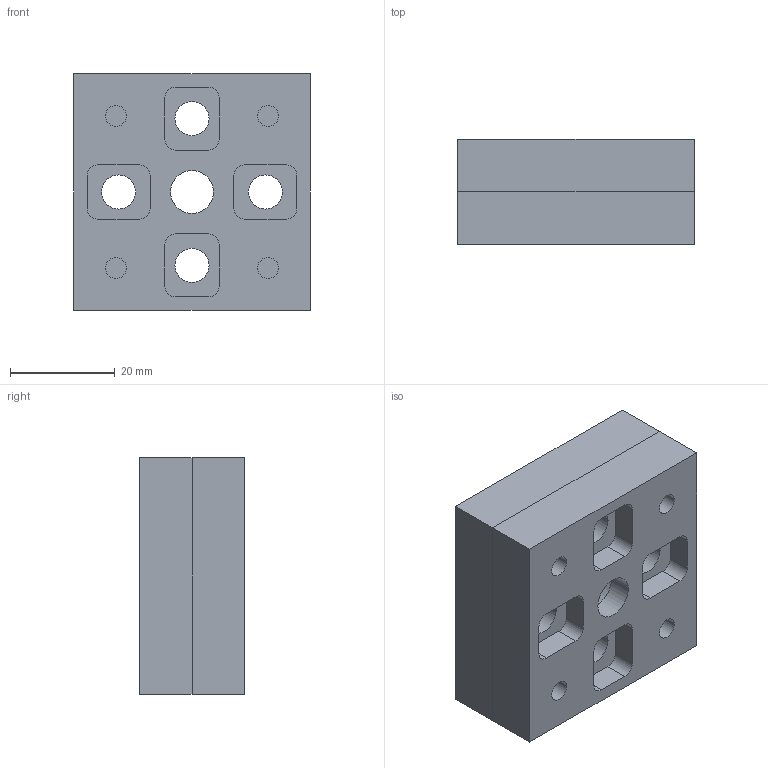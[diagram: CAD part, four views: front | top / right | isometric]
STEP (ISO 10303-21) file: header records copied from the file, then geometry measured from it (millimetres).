
FILE_DESCRIPTION((''),'2;1');
FILE_NAME('GIF0102_ASM','2002-12-27T',('Lipro doo'),('Lipro d.o.o.'),'PRO/ENGINEER BY PARAMETRIC TECHNOLOGY CORPORATION, 2001150','PRO/ENGINEER BY PARAMETRIC TECHNOLOGY CORPORATION, 2001150','');
FILE_SCHEMA(('CONFIG_CONTROL_DESIGN'));
Length unit declared in the file: millimetre
Products named in the file (3): GIF0100; GIF0100_3; GIF0102_ASM
Assembly tree (4 placements, depth 2):
  GIF0102_ASM
    GIF0100  x2
    GIF0100_3  x2
Bounding box: 45 x 20 x 45 mm (x, y, z)
Volume: 31890.8 mm3; surface area: 15511 mm2
Topology: 4 solids, 4 shells, 154 faces, 372 edges, 248 vertices
Faces by surface type: cylinder 84, plane 70
Entity records: 2413 total; most frequent: DIRECTION 438, CARTESIAN_POINT 394, ORIENTED_EDGE 372, EDGE_CURVE 186, AXIS2_PLACEMENT_3D 168, VERTEX_POINT 124, VECTOR 102, LINE 102
